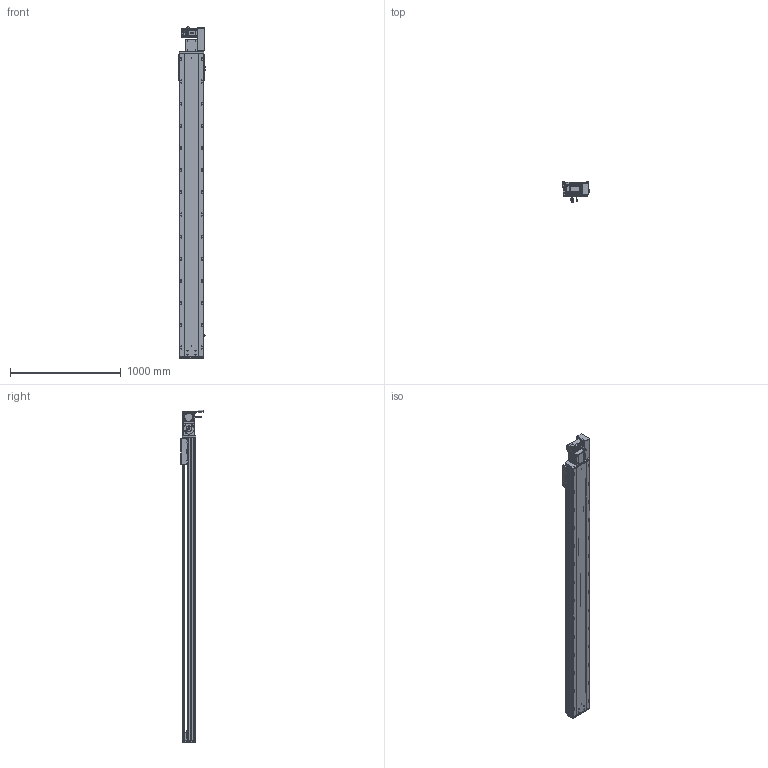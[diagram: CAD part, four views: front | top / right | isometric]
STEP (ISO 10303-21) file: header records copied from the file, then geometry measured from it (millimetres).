
FILE_DESCRIPTION (( 'STEP AP203' ), '1' );
FILE_NAME ('RY220-T-300-RK.SLDASM_2400.step', '2022-07-25T08:24:58', ( '' ), ( '' ), 'SwSTEP 2.0', 'SolidWorks 2016', '' );
FILE_SCHEMA (( 'CONFIG_CONTROL_DESIGN' ));
Length unit declared in the file: millimetre
Products named in the file (14): RY220-T-蛌殏萇儂假蚾啣(750W); RY220-俋离672覜茼んえ; RY220-T-湍謫欶(鍼踢); 滅袉蝶18-15; RY220圉猾敕々湍臏賑輸; RY220翋肮祭謫裔啣; RY220-T菁釱-300_2400; 覜茼ん672; RY220-T-300-RK.SLDASM_2400; RY220-同步轮副支撑座6304×2; RY220-T-300-奻裔啣_2400; RY220翋肮祭謫釱; 怢湛750W_ECMA-CX0807ES; 110A-T-肮祭謫釱傷裔
Assembly tree (18 placements, depth 2):
  RY220-T-300-RK.SLDASM_2400
    RY220-T菁釱-300_2400
    RY220翋肮祭謫釱
    覜茼ん672  x3
    RY220圉猾敕々湍臏賑輸
    RY220-T-300-奻裔啣_2400
    RY220-俋离672覜茼んえ
    滅袉蝶18-15  x3
    RY220翋肮祭謫裔啣  x2
    110A-T-肮祭謫釱傷裔
    怢湛750W_ECMA-CX0807ES
    RY220-T-湍謫欶(鍼踢)
    RY220-T-蛌殏萇儂假蚾啣(750W)
    RY220-同步轮副支撑座6304×2
Bounding box: 238.7 x 198.77 x 2995.24 mm (x, y, z)
Volume: 21322359.9 mm3; surface area: 6533098 mm2
Topology: 19 solids, 19 shells, 2906 faces, 8031 edges, 5044 vertices
Faces by surface type: cylinder 1414, plane 1069, cone 341, bspline 56, sphere 16, torus 10
Entity records: 96787 total; most frequent: CARTESIAN_POINT 27357, ORIENTED_EDGE 14362, DIRECTION 13800, EDGE_CURVE 7181, AXIS2_PLACEMENT_3D 4956, VERTEX_POINT 4668, LINE 3888, VECTOR 3888
